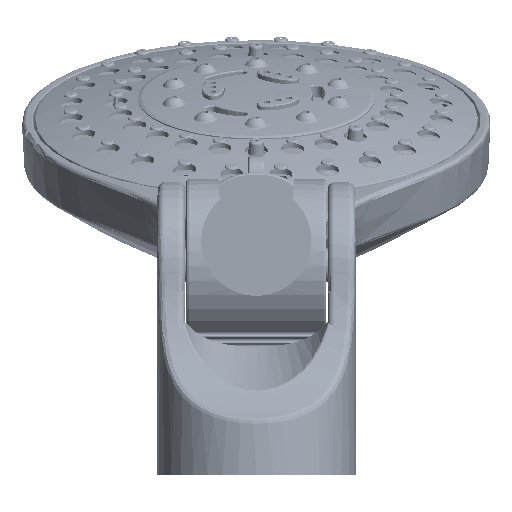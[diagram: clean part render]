
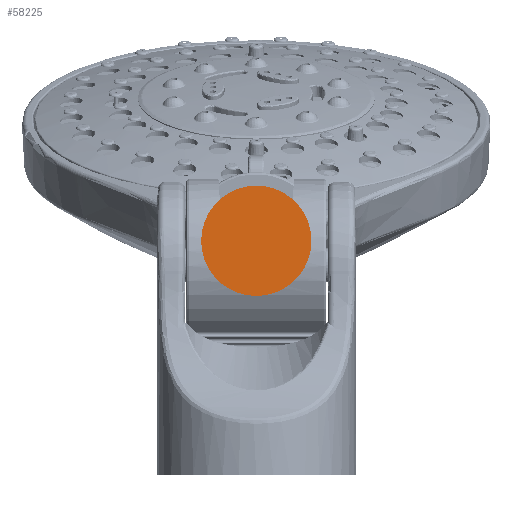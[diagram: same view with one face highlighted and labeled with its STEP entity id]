
A CAD part, front view. The second image highlights one B-rep face of the part: STEP entity #58225.
In plain terms, the highlighted planar face has unit normal (0, -1, 0).
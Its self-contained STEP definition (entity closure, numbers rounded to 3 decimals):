
#11122=FACE_OUTER_BOUND('',#14379,.T.);
#14379=EDGE_LOOP('',(#36113));
#18134=CIRCLE('',#61548,12.);
#21455=VERTEX_POINT('',#83694);
#27246=EDGE_CURVE('',#21455,#21455,#18134,.T.);
#36113=ORIENTED_EDGE('',*,*,#27246,.F.);
#53814=PLANE('',#61549);
#58225=ADVANCED_FACE('',(#11122),#53814,.F.);
#61548=AXIS2_PLACEMENT_3D('',#83695,#67951,#67952);
#61549=AXIS2_PLACEMENT_3D('',#83697,#67954,#67955);
#67951=DIRECTION('center_axis',(0.,1.,0.));
#67952=DIRECTION('ref_axis',(-1.,0.,0.));
#67954=DIRECTION('center_axis',(0.,1.,0.));
#67955=DIRECTION('ref_axis',(1.,0.,0.));
#83694=CARTESIAN_POINT('',(12.,-349.,-39.7));
#83695=CARTESIAN_POINT('Origin',(0.,-349.,-39.7));
#83697=CARTESIAN_POINT('Origin',(0.,-349.,-39.7));
